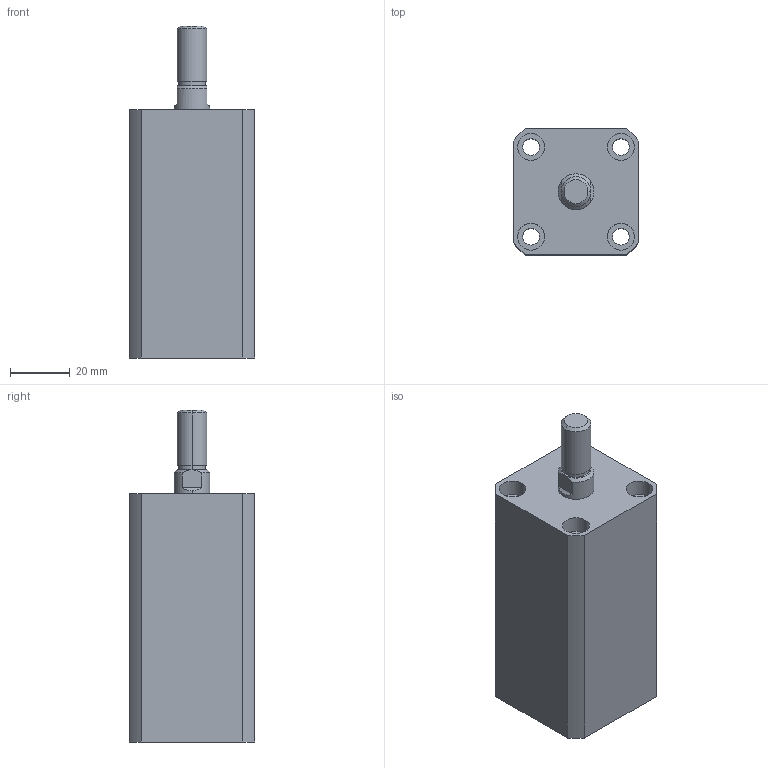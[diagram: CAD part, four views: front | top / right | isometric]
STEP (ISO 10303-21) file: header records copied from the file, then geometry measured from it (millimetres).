
FILE_DESCRIPTION (( 'STEP AP203' ), '1' );
FILE_NAME ('HTB-SDMB20-40W.STEP', '2019-10-08T11:56:47', ( '微软用户' ), ( '微软中国' ), 'SwSTEP 2.0', 'SolidWorks 2012', '' );
FILE_SCHEMA (( 'CONFIG_CONTROL_DESIGN' ));
Length unit declared in the file: millimetre
Products named in the file (3): HTB-SDMB20-40W活塞杆; HTB-SDMB20-40W; HTB-SDMB20-40掛极
Assembly tree (2 placements, depth 2):
  HTB-SDMB20-40W
    HTB-SDMB20-40掛极
    HTB-SDMB20-40W活塞杆
Bounding box: 42 x 42 x 111 mm (x, y, z)
Volume: 128080.6 mm3; surface area: 32266.7 mm2
Topology: 2 solids, 2 shells, 140 faces, 332 edges, 218 vertices
Faces by surface type: plane 66, cylinder 48, bspline 16, torus 6, cone 4
Entity records: 5129 total; most frequent: CARTESIAN_POINT 1587, ORIENTED_EDGE 664, DIRECTION 662, EDGE_CURVE 332, AXIS2_PLACEMENT_3D 241, VERTEX_POINT 218, VECTOR 180, LINE 180
